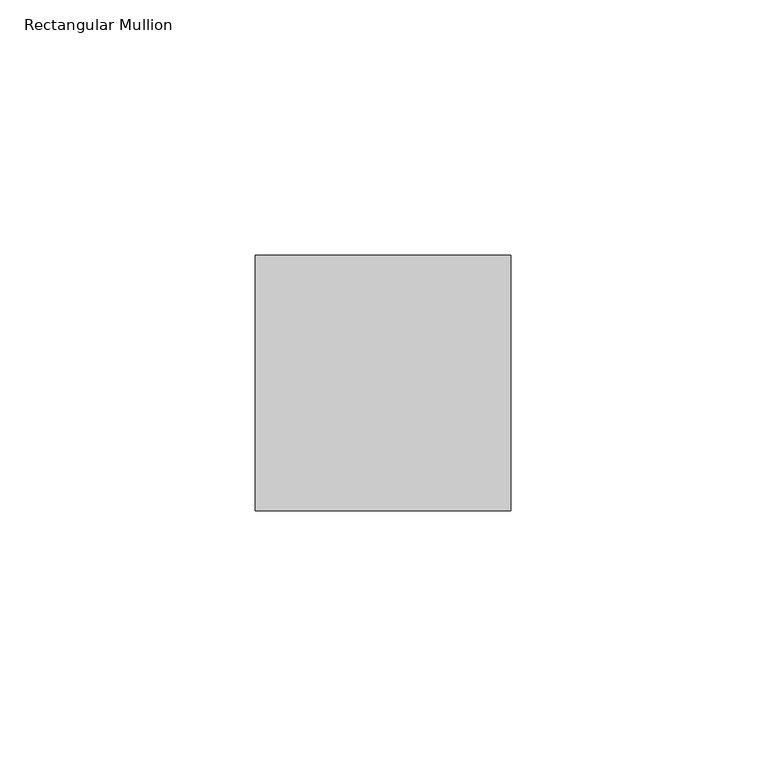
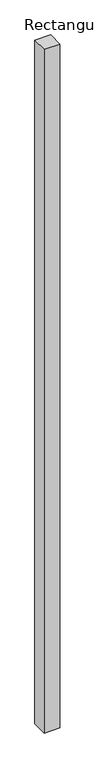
"""IFC4 building model written with IfcOpenShell, lengths in millimetres: member geometry, Rectangular Mullion : Mullion_Curtain Wall_Generic Showcase_50x50mm."""

from ifc_helpers import new_model, si_unit, frame, origin, place, context, project, spatial, polyline, outline, extrude, source, transform, mapped, element, save


def rectangular_mullion_915eebd7(model_context):
    return source(origin(), model_context, "Body", "SweptSolid", [
        extrude(outline(polyline([(0.0, 50.0), (0.0, 0.0), (-50.0, 0.0), (-50.0, 50.0), (0.0, 50.0)])), frame((0.0, 0.0, -2275.0), z_axis=(0.0, 0.0, 1.0), x_axis=(1.0, 0.0, 0.0)), (0.0, 0.0, 1.0), 2275.0),
    ])


if __name__ == "__main__":
    model = new_model("IFC4")
    model_context = context("Model", 3, world=origin())
    ifc_project = project(units=[si_unit("LENGTHUNIT", "METRE", prefix="MILLI")], contexts=[model_context])
    site = spatial("IfcSite", under=ifc_project)
    building = spatial("IfcBuilding", under=site)
    placement = place(None, origin())
    rectangular_mullion_shape = rectangular_mullion_915eebd7(model_context)
    element("IfcMember", 1, ObjectType="Rectangular Mullion : Mullion_Curtain Wall_Generic Showcase_50x50mm", at=placement, inside=building, context=model_context, shape_type="MappedRepresentation", body=[
        mapped(rectangular_mullion_shape, transform((0.0, 0.0, 0.0), x_axis=(1.0, 0.0, 0.0), y_axis=(0.0, 1.0, 0.0), z_axis=(0.0, 0.0, 1.0))),
    ])
    save(model, "model.ifc")
